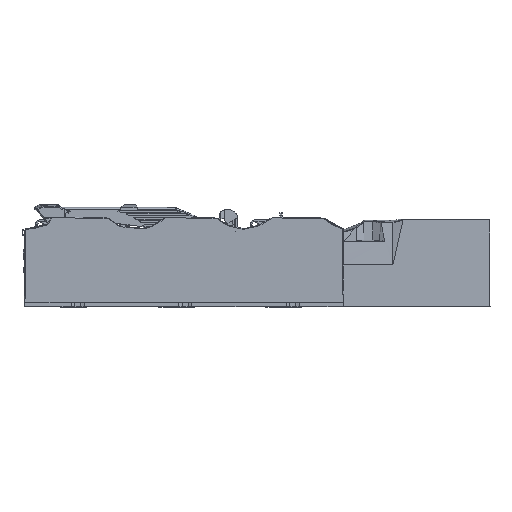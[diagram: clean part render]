
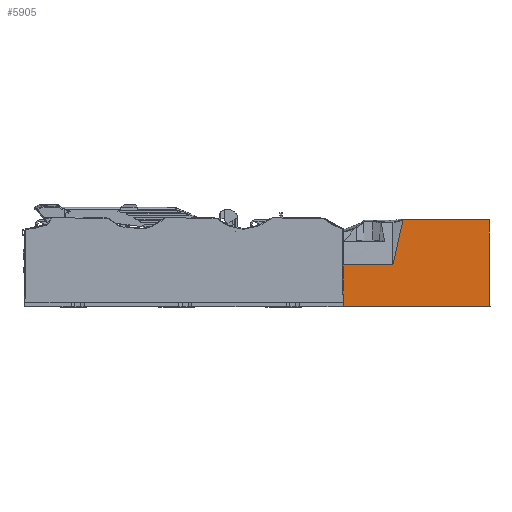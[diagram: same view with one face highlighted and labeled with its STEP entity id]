
A CAD part, front view. The second image highlights one B-rep face of the part: STEP entity #5905.
In plain terms, the highlighted planar face has unit normal (0, -1, 0.014).
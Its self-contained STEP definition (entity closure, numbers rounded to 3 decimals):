
#2091=PLANE('',#52372);
#3054=FACE_OUTER_BOUND('',#9413,.T.);
#5905=ADVANCED_FACE('',(#3054),#2091,.T.);
#9413=EDGE_LOOP('',(#19741,#19742,#19743,#19744,#19745,#19746,#19747,#19748,
#19749));
#12975=LINE('',#61971,#14901);
#13633=LINE('',#70312,#15571);
#13635=LINE('',#70316,#15573);
#13696=LINE('',#71028,#15635);
#13697=LINE('',#71040,#15636);
#13698=LINE('',#71041,#15637);
#14901=VECTOR('',#54428,1.);
#15571=VECTOR('',#55998,1.);
#15573=VECTOR('',#56002,1.);
#15635=VECTOR('',#56164,1.);
#15636=VECTOR('',#56167,1.);
#15637=VECTOR('',#56168,1.);
#17158=ELLIPSE('',#52371,71.622,1.);
#19741=ORIENTED_EDGE('',*,*,#40099,.T.);
#19742=ORIENTED_EDGE('',*,*,#40100,.T.);
#19743=ORIENTED_EDGE('',*,*,#40059,.F.);
#19744=ORIENTED_EDGE('',*,*,#38658,.F.);
#19745=ORIENTED_EDGE('',*,*,#40101,.T.);
#19746=ORIENTED_EDGE('',*,*,#40102,.F.);
#19747=ORIENTED_EDGE('',*,*,#39987,.T.);
#19748=ORIENTED_EDGE('',*,*,#39985,.F.);
#19749=ORIENTED_EDGE('',*,*,#40103,.T.);
#33457=VERTEX_POINT('',#61970);
#33458=VERTEX_POINT('',#61972);
#34468=VERTEX_POINT('',#70311);
#34469=VERTEX_POINT('',#70313);
#34470=VERTEX_POINT('',#70317);
#34514=VERTEX_POINT('',#70747);
#34542=VERTEX_POINT('',#71029);
#34543=VERTEX_POINT('',#71030);
#34544=VERTEX_POINT('',#71039);
#38658=EDGE_CURVE('',#33457,#33458,#12975,.T.);
#39985=EDGE_CURVE('',#34468,#34469,#13633,.T.);
#39987=EDGE_CURVE('',#34470,#34469,#13635,.T.);
#40059=EDGE_CURVE('',#33458,#34514,#47101,.T.);
#40099=EDGE_CURVE('',#34542,#34543,#13696,.T.);
#40100=EDGE_CURVE('',#34543,#34514,#47113,.T.);
#40101=EDGE_CURVE('',#33457,#34544,#17158,.T.);
#40102=EDGE_CURVE('',#34470,#34544,#13697,.T.);
#40103=EDGE_CURVE('',#34468,#34542,#13698,.T.);
#47101=B_SPLINE_CURVE_WITH_KNOTS('',3,(#70755,#70756,#70757,#70758,#70759,
#70760,#70761,#70762,#70763,#70764,#70765,#70766,#70767,#70768,#70769,#70770),
 .UNSPECIFIED.,.F.,.F.,(4,2,2,2,2,2,2,4),(0.,0.016,0.031,
0.063,0.125,0.25,0.5,1.),.UNSPECIFIED.);
#47113=B_SPLINE_CURVE_WITH_KNOTS('',3,(#71031,#71032,#71033,#71034,#71035,
#71036,#71037),.UNSPECIFIED.,.F.,.F.,(4,3,4),(0.,0.27,1.),
 .UNSPECIFIED.);
#52371=AXIS2_PLACEMENT_3D('',#71038,#56165,#56166);
#52372=AXIS2_PLACEMENT_3D('',#71042,#56169,#56170);
#54428=DIRECTION('',(1.,0.,0.));
#55998=DIRECTION('',(-1.,0.,0.));
#56002=DIRECTION('',(0.,-0.014,-1.));
#56164=DIRECTION('',(-1.,0.,0.));
#56165=DIRECTION('',(0.,1.,-0.014));
#56166=DIRECTION('',(0.,0.014,1.));
#56167=DIRECTION('',(-1.,0.,0.));
#56168=DIRECTION('',(-0.002,0.014,1.));
#56169=DIRECTION('',(0.,-1.,0.014));
#56170=DIRECTION('',(0.,0.014,1.));
#61970=CARTESIAN_POINT('',(249.077,-48.287,72.087));
#61971=CARTESIAN_POINT('',(222.258,-48.287,72.087));
#61972=CARTESIAN_POINT('',(334.558,-48.287,72.087));
#70311=CARTESIAN_POINT('',(500.558,-49.285,0.576));
#70312=CARTESIAN_POINT('',(246.558,-49.285,0.576));
#70313=CARTESIAN_POINT('',(249.119,-49.285,0.576));
#70316=CARTESIAN_POINT('',(249.119,-49.285,0.576));
#70317=CARTESIAN_POINT('',(249.119,-49.,21.012));
#70747=CARTESIAN_POINT('',(351.68,-47.219,148.544));
#70755=CARTESIAN_POINT('',(334.558,-48.287,72.087));
#70756=CARTESIAN_POINT('',(334.983,-48.287,72.087));
#70757=CARTESIAN_POINT('',(335.375,-48.284,72.28));
#70758=CARTESIAN_POINT('',(336.037,-48.277,72.804));
#70759=CARTESIAN_POINT('',(336.308,-48.272,73.12));
#70760=CARTESIAN_POINT('',(337.051,-48.258,74.133));
#70761=CARTESIAN_POINT('',(337.434,-48.248,74.87));
#70762=CARTESIAN_POINT('',(338.479,-48.217,77.119));
#70763=CARTESIAN_POINT('',(339.025,-48.195,78.693));
#70764=CARTESIAN_POINT('',(340.518,-48.128,83.428));
#70765=CARTESIAN_POINT('',(341.307,-48.084,86.637));
#70766=CARTESIAN_POINT('',(343.502,-47.949,96.306));
#70767=CARTESIAN_POINT('',(344.702,-47.858,102.817));
#70768=CARTESIAN_POINT('',(348.062,-47.585,122.36));
#70769=CARTESIAN_POINT('',(349.945,-47.402,135.441));
#70770=CARTESIAN_POINT('',(351.68,-47.219,148.544));
#71028=CARTESIAN_POINT('',(246.558,-47.205,149.59));
#71029=CARTESIAN_POINT('',(500.298,-47.205,149.59));
#71030=CARTESIAN_POINT('',(353.774,-47.205,149.59));
#71031=CARTESIAN_POINT('',(353.774,-47.205,149.59));
#71032=CARTESIAN_POINT('',(353.588,-47.206,149.491));
#71033=CARTESIAN_POINT('',(353.401,-47.207,149.394));
#71034=CARTESIAN_POINT('',(353.213,-47.209,149.298));
#71035=CARTESIAN_POINT('',(352.706,-47.212,149.038));
#71036=CARTESIAN_POINT('',(352.195,-47.216,148.786));
#71037=CARTESIAN_POINT('',(351.68,-47.219,148.544));
#71038=CARTESIAN_POINT('',(248.119,-48.,92.627));
#71039=CARTESIAN_POINT('',(248.119,-49.,21.012));
#71040=CARTESIAN_POINT('',(246.558,-49.,21.012));
#71041=CARTESIAN_POINT('',(500.557,-49.279,1.019));
#71042=CARTESIAN_POINT('',(246.558,-49.285,0.576));
